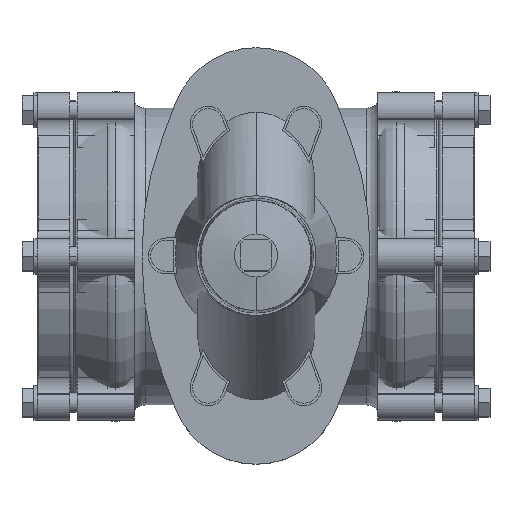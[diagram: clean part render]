
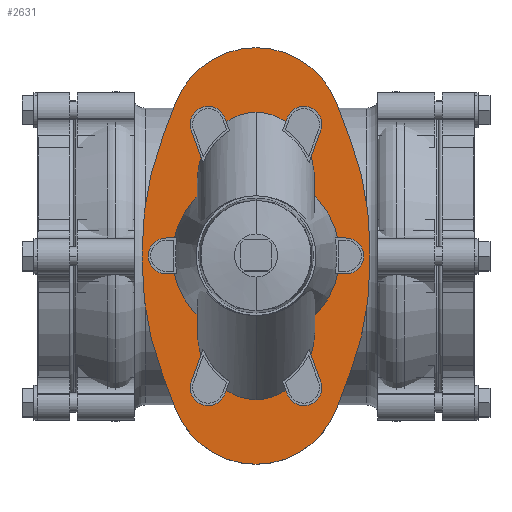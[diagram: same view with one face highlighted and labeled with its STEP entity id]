
A CAD part, top view. The second image highlights one B-rep face of the part: STEP entity #2631.
In plain terms, the highlighted planar face has unit normal (0, 0, 1).
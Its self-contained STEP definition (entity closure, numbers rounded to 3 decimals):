
#2631=ADVANCED_FACE('',(#5330),#5331,.T.);
#5330=FACE_OUTER_BOUND('',#8918,.T.);
#5331=PLANE('',#8919);
#8918=EDGE_LOOP('',(#13297,#13298,#13299,#13300,#13301,#13302,#13303,#13304,#13305,#13306,#13307,#13308,#13309,#13310));
#8919=AXIS2_PLACEMENT_3D('',#13311,#13312,#13313);
#13297=ORIENTED_EDGE('',*,*,#20511,.F.);
#13298=ORIENTED_EDGE('',*,*,#20512,.F.);
#13299=ORIENTED_EDGE('',*,*,#20513,.F.);
#13300=ORIENTED_EDGE('',*,*,#20514,.F.);
#13301=ORIENTED_EDGE('',*,*,#20515,.F.);
#13302=ORIENTED_EDGE('',*,*,#20516,.F.);
#13303=ORIENTED_EDGE('',*,*,#20517,.F.);
#13304=ORIENTED_EDGE('',*,*,#20518,.F.);
#13305=ORIENTED_EDGE('',*,*,#19783,.F.);
#13306=ORIENTED_EDGE('',*,*,#20519,.F.);
#13307=ORIENTED_EDGE('',*,*,#20520,.F.);
#13308=ORIENTED_EDGE('',*,*,#20521,.F.);
#13309=ORIENTED_EDGE('',*,*,#20522,.F.);
#13310=ORIENTED_EDGE('',*,*,#20472,.F.);
#13311=CARTESIAN_POINT('',(52.551,0.001,281.0));
#13312=DIRECTION('',(0.0,0.0,1.0));
#13313=DIRECTION('',(1.0,0.0,0.0));
#19783=EDGE_CURVE('',#23340,#23341,#23342,.T.);
#20472=EDGE_CURVE('',#24458,#24453,#24460,.T.);
#20511=EDGE_CURVE('',#24518,#24458,#24519,.T.);
#20512=EDGE_CURVE('',#24520,#24518,#24521,.T.);
#20513=EDGE_CURVE('',#24522,#24520,#24523,.T.);
#20514=EDGE_CURVE('',#24524,#24522,#24525,.T.);
#20515=EDGE_CURVE('',#24526,#24524,#24527,.T.);
#20516=EDGE_CURVE('',#24528,#24526,#24529,.T.);
#20517=EDGE_CURVE('',#24530,#24528,#24531,.T.);
#20518=EDGE_CURVE('',#23341,#24530,#24532,.T.);
#20519=EDGE_CURVE('',#24533,#23340,#24534,.T.);
#20520=EDGE_CURVE('',#24535,#24533,#24536,.T.);
#20521=EDGE_CURVE('',#24537,#24535,#24538,.T.);
#20522=EDGE_CURVE('',#24453,#24537,#24539,.T.);
#23340=VERTEX_POINT('',#28162);
#23341=VERTEX_POINT('',#28163);
#23342=CIRCLE('',#28164,71.99);
#24453=VERTEX_POINT('',#29600);
#24458=VERTEX_POINT('',#29606);
#24460=CIRCLE('',#29609,261.98);
#24518=VERTEX_POINT('',#29689);
#24519=LINE('',#29690,#29691);
#24520=VERTEX_POINT('',#29692);
#24521=CIRCLE('',#29693,71.99);
#24522=VERTEX_POINT('',#29694);
#24523=LINE('',#29695,#29696);
#24524=VERTEX_POINT('',#29697);
#24525=CIRCLE('',#29698,250.48);
#24526=VERTEX_POINT('',#29699);
#24527=CIRCLE('',#29700,250.48);
#24528=VERTEX_POINT('',#29701);
#24529=CIRCLE('',#29702,250.48);
#24530=VERTEX_POINT('',#29703);
#24531=CIRCLE('',#29704,250.48);
#24532=LINE('',#29705,#29706);
#24533=VERTEX_POINT('',#29707);
#24534=LINE('',#29708,#29709);
#24535=VERTEX_POINT('',#29710);
#24536=CIRCLE('',#29711,261.98);
#24537=VERTEX_POINT('',#29712);
#24538=CIRCLE('',#29713,261.98);
#24539=CIRCLE('',#29714,261.98);
#28162=CARTESIAN_POINT('',(-14.854,127.417,281.0));
#28163=CARTESIAN_POINT('',(119.865,127.417,281.0));
#28164=AXIS2_PLACEMENT_3D('',#33645,#33646,#33647);
#29600=CARTESIAN_POINT('',(-42.56,-6.191,281.0));
#29606=CARTESIAN_POINT('',(-25.708,-98.634,281.0));
#29609=AXIS2_PLACEMENT_3D('',#34560,#34561,#34562);
#29689=CARTESIAN_POINT('',(-14.854,-127.417,281.0));
#29690=CARTESIAN_POINT('',(-25.708,-98.634,281.0));
#29691=VECTOR('',#34603,1.0);
#29692=CARTESIAN_POINT('',(119.873,-127.395,281.0));
#29693=AXIS2_PLACEMENT_3D('',#34604,#34605,#34606);
#29694=CARTESIAN_POINT('',(131.541,-96.424,281.0));
#29695=CARTESIAN_POINT('',(119.873,-127.395,281.0));
#29696=VECTOR('',#34607,1.0);
#29697=CARTESIAN_POINT('',(147.624,-8.117,281.0));
#29698=AXIS2_PLACEMENT_3D('',#34608,#34609,#34610);
#29699=CARTESIAN_POINT('',(147.497,-0.153,281.0));
#29700=AXIS2_PLACEMENT_3D('',#34611,#34612,#34613);
#29701=CARTESIAN_POINT('',(147.634,8.121,281.0));
#29702=AXIS2_PLACEMENT_3D('',#34614,#34615,#34616);
#29703=CARTESIAN_POINT('',(131.522,96.504,281.0));
#29704=AXIS2_PLACEMENT_3D('',#34617,#34618,#34619);
#29705=CARTESIAN_POINT('',(131.522,96.504,281.0));
#29706=VECTOR('',#34620,1.);
#29707=CARTESIAN_POINT('',(-25.708,98.634,281.0));
#29708=CARTESIAN_POINT('',(-14.854,127.417,281.0));
#29709=VECTOR('',#34621,1.0);
#29710=CARTESIAN_POINT('',(-42.56,6.191,281.0));
#29711=AXIS2_PLACEMENT_3D('',#34622,#34623,#34624);
#29712=CARTESIAN_POINT('',(-42.487,0.,281.0));
#29713=AXIS2_PLACEMENT_3D('',#34625,#34626,#34627);
#29714=AXIS2_PLACEMENT_3D('',#34628,#34629,#34630);
#33645=CARTESIAN_POINT('',(52.505,102.014,281.0));
#33646=DIRECTION('',(0.0,0.0,-1.0));
#33647=DIRECTION('',(1.0,0.0,0.0));
#34560=CARTESIAN_POINT('',(219.42,-6.191,281.0));
#34561=DIRECTION('',(0.0,0.0,-1.0));
#34562=DIRECTION('',(1.0,0.0,0.0));
#34603=DIRECTION('',(-0.353,0.936,0.0));
#34604=CARTESIAN_POINT('',(52.505,-102.014,281.0));
#34605=DIRECTION('',(0.0,0.0,-1.0));
#34606=DIRECTION('',(1.0,0.0,0.0));
#34607=DIRECTION('',(-0.353,-0.936,-0.0));
#34608=CARTESIAN_POINT('',(-102.856,-8.117,281.0));
#34609=DIRECTION('',(0.0,0.0,-1.0));
#34610=DIRECTION('',(1.0,0.0,0.0));
#34611=CARTESIAN_POINT('',(-102.856,-8.117,281.0));
#34612=DIRECTION('',(0.0,0.0,-1.0));
#34613=DIRECTION('',(1.0,0.0,0.0));
#34614=CARTESIAN_POINT('',(-102.846,8.121,281.0));
#34615=DIRECTION('',(0.0,0.0,-1.0));
#34616=DIRECTION('',(1.0,0.0,0.0));
#34617=CARTESIAN_POINT('',(-102.846,8.121,281.0));
#34618=DIRECTION('',(0.0,0.0,-1.0));
#34619=DIRECTION('',(1.0,0.0,0.0));
#34620=DIRECTION('',(0.353,-0.936,0.0));
#34621=DIRECTION('',(0.353,0.936,0.0));
#34622=CARTESIAN_POINT('',(219.42,6.191,281.0));
#34623=DIRECTION('',(0.0,0.0,-1.0));
#34624=DIRECTION('',(1.0,0.0,0.0));
#34625=CARTESIAN_POINT('',(219.42,6.191,281.0));
#34626=DIRECTION('',(0.0,0.0,-1.0));
#34627=DIRECTION('',(1.0,0.0,0.0));
#34628=CARTESIAN_POINT('',(219.42,-6.191,281.0));
#34629=DIRECTION('',(0.0,0.0,-1.0));
#34630=DIRECTION('',(1.0,0.0,0.0));
